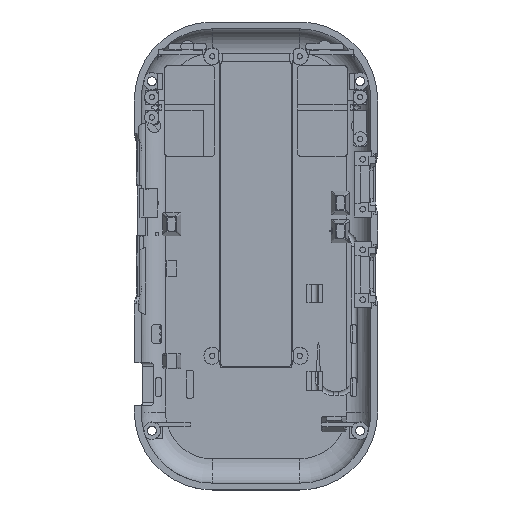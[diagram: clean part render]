
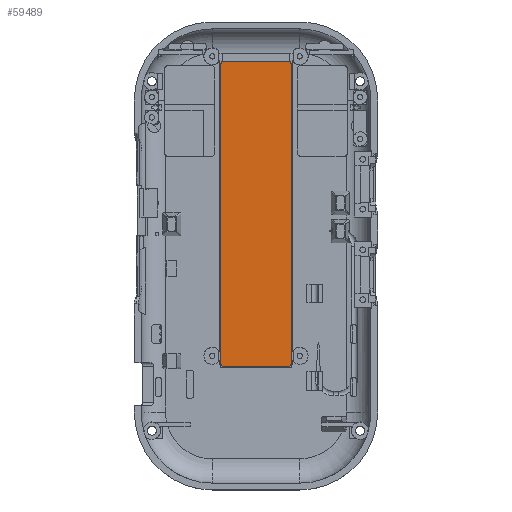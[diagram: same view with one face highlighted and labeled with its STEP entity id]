
A CAD part, top view. The second image highlights one B-rep face of the part: STEP entity #59489.
In plain terms, the highlighted planar face has unit normal (0, 0, 1).
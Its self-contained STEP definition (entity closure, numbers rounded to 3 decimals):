
#7914 = CYLINDRICAL_SURFACE('',#7915,1.);
#7915 = AXIS2_PLACEMENT_3D('',#7916,#7917,#7918);
#7916 = CARTESIAN_POINT('',(-10.25,-34.5,-22.1));
#7917 = DIRECTION('',(-0.,-0.,-1.));
#7918 = DIRECTION('',(1.,0.,0.));
#8129 = CYLINDRICAL_SURFACE('',#8130,1.);
#8130 = AXIS2_PLACEMENT_3D('',#8131,#8132,#8133);
#8131 = CARTESIAN_POINT('',(10.25,-34.5,-22.1));
#8132 = DIRECTION('',(-0.,-0.,-1.));
#8133 = DIRECTION('',(1.,0.,0.));
#20680 = PLANE('',#20681);
#20681 = AXIS2_PLACEMENT_3D('',#20682,#20683,#20684);
#20682 = CARTESIAN_POINT('',(-11.25,-34.5,-22.1));
#20683 = DIRECTION('',(-1.,0.,0.));
#20684 = DIRECTION('',(0.,1.,0.));
#20713 = CYLINDRICAL_SURFACE('',#20714,1.);
#20714 = AXIS2_PLACEMENT_3D('',#20715,#20716,#20717);
#20715 = CARTESIAN_POINT('',(-10.25,61.5,-22.1));
#20716 = DIRECTION('',(-0.,-0.,-1.));
#20717 = DIRECTION('',(1.,0.,0.));
#20750 = VERTEX_POINT('',#20751);
#20751 = CARTESIAN_POINT('',(-11.25,-34.5,-22.1));
#20772 = EDGE_CURVE('',#20750,#20773,#20775,.T.);
#20773 = VERTEX_POINT('',#20774);
#20774 = CARTESIAN_POINT('',(-10.25,-35.5,-22.1));
#20775 = SURFACE_CURVE('',#20776,(#20781,#20788),.PCURVE_S1.);
#20776 = CIRCLE('',#20777,1.);
#20777 = AXIS2_PLACEMENT_3D('',#20778,#20779,#20780);
#20778 = CARTESIAN_POINT('',(-10.25,-34.5,-22.1));
#20779 = DIRECTION('',(0.,0.,1.));
#20780 = DIRECTION('',(1.,0.,-0.));
#20781 = PCURVE('',#7914,#20782);
#20782 = DEFINITIONAL_REPRESENTATION('',(#20783),#20787);
#20783 = LINE('',#20784,#20785);
#20784 = CARTESIAN_POINT('',(6.283,0.));
#20785 = VECTOR('',#20786,1.);
#20786 = DIRECTION('',(-1.,0.));
#20787 = ( GEOMETRIC_REPRESENTATION_CONTEXT(2) 
PARAMETRIC_REPRESENTATION_CONTEXT() REPRESENTATION_CONTEXT('2D SPACE',''
  ) );
#20788 = PCURVE('',#20789,#20794);
#20789 = PLANE('',#20790);
#20790 = AXIS2_PLACEMENT_3D('',#20791,#20792,#20793);
#20791 = CARTESIAN_POINT('',(0.,13.5,-22.1));
#20792 = DIRECTION('',(0.,0.,1.));
#20793 = DIRECTION('',(1.,0.,-0.));
#20794 = DEFINITIONAL_REPRESENTATION('',(#20795),#20799);
#20795 = CIRCLE('',#20796,1.);
#20796 = AXIS2_PLACEMENT_2D('',#20797,#20798);
#20797 = CARTESIAN_POINT('',(-10.25,-48.));
#20798 = DIRECTION('',(1.,0.));
#20799 = ( GEOMETRIC_REPRESENTATION_CONTEXT(2) 
PARAMETRIC_REPRESENTATION_CONTEXT() REPRESENTATION_CONTEXT('2D SPACE',''
  ) );
#20817 = PLANE('',#20818);
#20818 = AXIS2_PLACEMENT_3D('',#20819,#20820,#20821);
#20819 = CARTESIAN_POINT('',(-10.25,-35.5,-22.1));
#20820 = DIRECTION('',(0.,1.,0.));
#20821 = DIRECTION('',(1.,0.,0.));
#20921 = VERTEX_POINT('',#20922);
#20922 = CARTESIAN_POINT('',(10.25,-35.5,-22.1));
#20943 = EDGE_CURVE('',#20921,#20944,#20946,.T.);
#20944 = VERTEX_POINT('',#20945);
#20945 = CARTESIAN_POINT('',(11.25,-34.5,-22.1));
#20946 = SURFACE_CURVE('',#20947,(#20952,#20959),.PCURVE_S1.);
#20947 = CIRCLE('',#20948,1.);
#20948 = AXIS2_PLACEMENT_3D('',#20949,#20950,#20951);
#20949 = CARTESIAN_POINT('',(10.25,-34.5,-22.1));
#20950 = DIRECTION('',(0.,0.,1.));
#20951 = DIRECTION('',(1.,0.,-0.));
#20952 = PCURVE('',#8129,#20953);
#20953 = DEFINITIONAL_REPRESENTATION('',(#20954),#20958);
#20954 = LINE('',#20955,#20956);
#20955 = CARTESIAN_POINT('',(6.283,0.));
#20956 = VECTOR('',#20957,1.);
#20957 = DIRECTION('',(-1.,0.));
#20958 = ( GEOMETRIC_REPRESENTATION_CONTEXT(2) 
PARAMETRIC_REPRESENTATION_CONTEXT() REPRESENTATION_CONTEXT('2D SPACE',''
  ) );
#20959 = PCURVE('',#20789,#20960);
#20960 = DEFINITIONAL_REPRESENTATION('',(#20961),#20965);
#20961 = CIRCLE('',#20962,1.);
#20962 = AXIS2_PLACEMENT_2D('',#20963,#20964);
#20963 = CARTESIAN_POINT('',(10.25,-48.));
#20964 = DIRECTION('',(1.,0.));
#20965 = ( GEOMETRIC_REPRESENTATION_CONTEXT(2) 
PARAMETRIC_REPRESENTATION_CONTEXT() REPRESENTATION_CONTEXT('2D SPACE',''
  ) );
#20983 = PLANE('',#20984);
#20984 = AXIS2_PLACEMENT_3D('',#20985,#20986,#20987);
#20985 = CARTESIAN_POINT('',(11.25,-34.5,-22.1));
#20986 = DIRECTION('',(-1.,0.,0.));
#20987 = DIRECTION('',(0.,1.,0.));
#21093 = CYLINDRICAL_SURFACE('',#21094,1.);
#21094 = AXIS2_PLACEMENT_3D('',#21095,#21096,#21097);
#21095 = CARTESIAN_POINT('',(10.25,61.5,-22.1));
#21096 = DIRECTION('',(-0.,-0.,-1.));
#21097 = DIRECTION('',(1.,0.,0.));
#47835 = PLANE('',#47836);
#47836 = AXIS2_PLACEMENT_3D('',#47837,#47838,#47839);
#47837 = CARTESIAN_POINT('',(-10.25,62.5,-22.1));
#47838 = DIRECTION('',(0.,1.,0.));
#47839 = DIRECTION('',(1.,0.,0.));
#59393 = EDGE_CURVE('',#20750,#59394,#59396,.T.);
#59394 = VERTEX_POINT('',#59395);
#59395 = CARTESIAN_POINT('',(-11.25,61.5,-22.1));
#59396 = SURFACE_CURVE('',#59397,(#59401,#59408),.PCURVE_S1.);
#59397 = LINE('',#59398,#59399);
#59398 = CARTESIAN_POINT('',(-11.25,13.5,-22.1));
#59399 = VECTOR('',#59400,1.);
#59400 = DIRECTION('',(0.,1.,0.));
#59401 = PCURVE('',#20680,#59402);
#59402 = DEFINITIONAL_REPRESENTATION('',(#59403),#59407);
#59403 = LINE('',#59404,#59405);
#59404 = CARTESIAN_POINT('',(48.,0.));
#59405 = VECTOR('',#59406,1.);
#59406 = DIRECTION('',(1.,0.));
#59407 = ( GEOMETRIC_REPRESENTATION_CONTEXT(2) 
PARAMETRIC_REPRESENTATION_CONTEXT() REPRESENTATION_CONTEXT('2D SPACE',''
  ) );
#59408 = PCURVE('',#20789,#59409);
#59409 = DEFINITIONAL_REPRESENTATION('',(#59410),#59414);
#59410 = LINE('',#59411,#59412);
#59411 = CARTESIAN_POINT('',(-11.25,0.));
#59412 = VECTOR('',#59413,1.);
#59413 = DIRECTION('',(0.,1.));
#59414 = ( GEOMETRIC_REPRESENTATION_CONTEXT(2) 
PARAMETRIC_REPRESENTATION_CONTEXT() REPRESENTATION_CONTEXT('2D SPACE',''
  ) );
#59443 = VERTEX_POINT('',#59444);
#59444 = CARTESIAN_POINT('',(-10.25,62.5,-22.1));
#59465 = EDGE_CURVE('',#59443,#59394,#59466,.T.);
#59466 = SURFACE_CURVE('',#59467,(#59472,#59479),.PCURVE_S1.);
#59467 = CIRCLE('',#59468,1.);
#59468 = AXIS2_PLACEMENT_3D('',#59469,#59470,#59471);
#59469 = CARTESIAN_POINT('',(-10.25,61.5,-22.1));
#59470 = DIRECTION('',(0.,0.,1.));
#59471 = DIRECTION('',(1.,0.,-0.));
#59472 = PCURVE('',#20713,#59473);
#59473 = DEFINITIONAL_REPRESENTATION('',(#59474),#59478);
#59474 = LINE('',#59475,#59476);
#59475 = CARTESIAN_POINT('',(6.283,0.));
#59476 = VECTOR('',#59477,1.);
#59477 = DIRECTION('',(-1.,0.));
#59478 = ( GEOMETRIC_REPRESENTATION_CONTEXT(2) 
PARAMETRIC_REPRESENTATION_CONTEXT() REPRESENTATION_CONTEXT('2D SPACE',''
  ) );
#59479 = PCURVE('',#20789,#59480);
#59480 = DEFINITIONAL_REPRESENTATION('',(#59481),#59485);
#59481 = CIRCLE('',#59482,1.);
#59482 = AXIS2_PLACEMENT_2D('',#59483,#59484);
#59483 = CARTESIAN_POINT('',(-10.25,48.));
#59484 = DIRECTION('',(1.,0.));
#59485 = ( GEOMETRIC_REPRESENTATION_CONTEXT(2) 
PARAMETRIC_REPRESENTATION_CONTEXT() REPRESENTATION_CONTEXT('2D SPACE',''
  ) );
#59489 = ADVANCED_FACE('',(#59490),#20789,.T.);
#59490 = FACE_BOUND('',#59491,.T.);
#59491 = EDGE_LOOP('',(#59492,#59493,#59494,#59515,#59516,#59539,#59563,
    #59584));
#59492 = ORIENTED_EDGE('',*,*,#59393,.F.);
#59493 = ORIENTED_EDGE('',*,*,#20772,.T.);
#59494 = ORIENTED_EDGE('',*,*,#59495,.T.);
#59495 = EDGE_CURVE('',#20773,#20921,#59496,.T.);
#59496 = SURFACE_CURVE('',#59497,(#59501,#59508),.PCURVE_S1.);
#59497 = LINE('',#59498,#59499);
#59498 = CARTESIAN_POINT('',(0.,-35.5,-22.1));
#59499 = VECTOR('',#59500,1.);
#59500 = DIRECTION('',(1.,0.,0.));
#59501 = PCURVE('',#20789,#59502);
#59502 = DEFINITIONAL_REPRESENTATION('',(#59503),#59507);
#59503 = LINE('',#59504,#59505);
#59504 = CARTESIAN_POINT('',(0.,-49.));
#59505 = VECTOR('',#59506,1.);
#59506 = DIRECTION('',(1.,0.));
#59507 = ( GEOMETRIC_REPRESENTATION_CONTEXT(2) 
PARAMETRIC_REPRESENTATION_CONTEXT() REPRESENTATION_CONTEXT('2D SPACE',''
  ) );
#59508 = PCURVE('',#20817,#59509);
#59509 = DEFINITIONAL_REPRESENTATION('',(#59510),#59514);
#59510 = LINE('',#59511,#59512);
#59511 = CARTESIAN_POINT('',(10.25,0.));
#59512 = VECTOR('',#59513,1.);
#59513 = DIRECTION('',(1.,0.));
#59514 = ( GEOMETRIC_REPRESENTATION_CONTEXT(2) 
PARAMETRIC_REPRESENTATION_CONTEXT() REPRESENTATION_CONTEXT('2D SPACE',''
  ) );
#59515 = ORIENTED_EDGE('',*,*,#20943,.T.);
#59516 = ORIENTED_EDGE('',*,*,#59517,.T.);
#59517 = EDGE_CURVE('',#20944,#59518,#59520,.T.);
#59518 = VERTEX_POINT('',#59519);
#59519 = CARTESIAN_POINT('',(11.25,61.5,-22.1));
#59520 = SURFACE_CURVE('',#59521,(#59525,#59532),.PCURVE_S1.);
#59521 = LINE('',#59522,#59523);
#59522 = CARTESIAN_POINT('',(11.25,13.5,-22.1));
#59523 = VECTOR('',#59524,1.);
#59524 = DIRECTION('',(0.,1.,0.));
#59525 = PCURVE('',#20789,#59526);
#59526 = DEFINITIONAL_REPRESENTATION('',(#59527),#59531);
#59527 = LINE('',#59528,#59529);
#59528 = CARTESIAN_POINT('',(11.25,0.));
#59529 = VECTOR('',#59530,1.);
#59530 = DIRECTION('',(0.,1.));
#59531 = ( GEOMETRIC_REPRESENTATION_CONTEXT(2) 
PARAMETRIC_REPRESENTATION_CONTEXT() REPRESENTATION_CONTEXT('2D SPACE',''
  ) );
#59532 = PCURVE('',#20983,#59533);
#59533 = DEFINITIONAL_REPRESENTATION('',(#59534),#59538);
#59534 = LINE('',#59535,#59536);
#59535 = CARTESIAN_POINT('',(48.,0.));
#59536 = VECTOR('',#59537,1.);
#59537 = DIRECTION('',(1.,0.));
#59538 = ( GEOMETRIC_REPRESENTATION_CONTEXT(2) 
PARAMETRIC_REPRESENTATION_CONTEXT() REPRESENTATION_CONTEXT('2D SPACE',''
  ) );
#59539 = ORIENTED_EDGE('',*,*,#59540,.T.);
#59540 = EDGE_CURVE('',#59518,#59541,#59543,.T.);
#59541 = VERTEX_POINT('',#59542);
#59542 = CARTESIAN_POINT('',(10.25,62.5,-22.1));
#59543 = SURFACE_CURVE('',#59544,(#59549,#59556),.PCURVE_S1.);
#59544 = CIRCLE('',#59545,1.);
#59545 = AXIS2_PLACEMENT_3D('',#59546,#59547,#59548);
#59546 = CARTESIAN_POINT('',(10.25,61.5,-22.1));
#59547 = DIRECTION('',(0.,0.,1.));
#59548 = DIRECTION('',(1.,0.,-0.));
#59549 = PCURVE('',#20789,#59550);
#59550 = DEFINITIONAL_REPRESENTATION('',(#59551),#59555);
#59551 = CIRCLE('',#59552,1.);
#59552 = AXIS2_PLACEMENT_2D('',#59553,#59554);
#59553 = CARTESIAN_POINT('',(10.25,48.));
#59554 = DIRECTION('',(1.,0.));
#59555 = ( GEOMETRIC_REPRESENTATION_CONTEXT(2) 
PARAMETRIC_REPRESENTATION_CONTEXT() REPRESENTATION_CONTEXT('2D SPACE',''
  ) );
#59556 = PCURVE('',#21093,#59557);
#59557 = DEFINITIONAL_REPRESENTATION('',(#59558),#59562);
#59558 = LINE('',#59559,#59560);
#59559 = CARTESIAN_POINT('',(6.283,0.));
#59560 = VECTOR('',#59561,1.);
#59561 = DIRECTION('',(-1.,0.));
#59562 = ( GEOMETRIC_REPRESENTATION_CONTEXT(2) 
PARAMETRIC_REPRESENTATION_CONTEXT() REPRESENTATION_CONTEXT('2D SPACE',''
  ) );
#59563 = ORIENTED_EDGE('',*,*,#59564,.F.);
#59564 = EDGE_CURVE('',#59443,#59541,#59565,.T.);
#59565 = SURFACE_CURVE('',#59566,(#59570,#59577),.PCURVE_S1.);
#59566 = LINE('',#59567,#59568);
#59567 = CARTESIAN_POINT('',(0.,62.5,-22.1));
#59568 = VECTOR('',#59569,1.);
#59569 = DIRECTION('',(1.,0.,0.));
#59570 = PCURVE('',#20789,#59571);
#59571 = DEFINITIONAL_REPRESENTATION('',(#59572),#59576);
#59572 = LINE('',#59573,#59574);
#59573 = CARTESIAN_POINT('',(0.,49.));
#59574 = VECTOR('',#59575,1.);
#59575 = DIRECTION('',(1.,0.));
#59576 = ( GEOMETRIC_REPRESENTATION_CONTEXT(2) 
PARAMETRIC_REPRESENTATION_CONTEXT() REPRESENTATION_CONTEXT('2D SPACE',''
  ) );
#59577 = PCURVE('',#47835,#59578);
#59578 = DEFINITIONAL_REPRESENTATION('',(#59579),#59583);
#59579 = LINE('',#59580,#59581);
#59580 = CARTESIAN_POINT('',(10.25,0.));
#59581 = VECTOR('',#59582,1.);
#59582 = DIRECTION('',(1.,0.));
#59583 = ( GEOMETRIC_REPRESENTATION_CONTEXT(2) 
PARAMETRIC_REPRESENTATION_CONTEXT() REPRESENTATION_CONTEXT('2D SPACE',''
  ) );
#59584 = ORIENTED_EDGE('',*,*,#59465,.T.);
